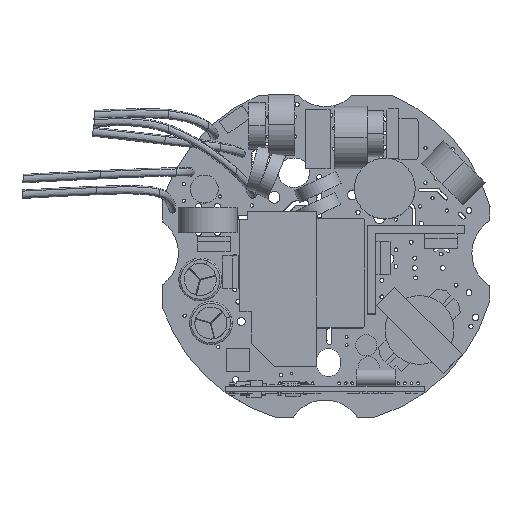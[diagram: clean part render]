
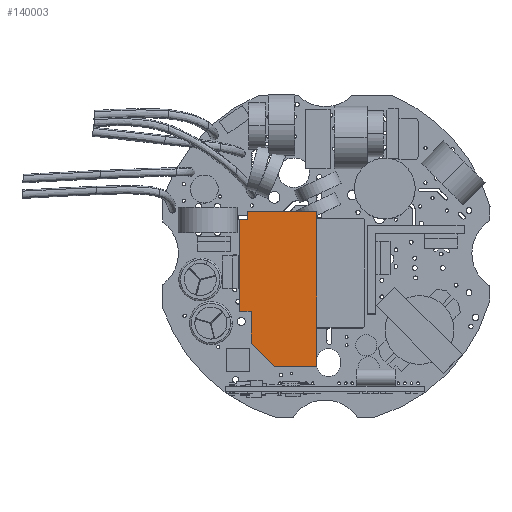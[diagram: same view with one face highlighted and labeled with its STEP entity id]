
A CAD part, top view. The second image highlights one B-rep face of the part: STEP entity #140003.
In plain terms, the highlighted planar face has unit normal (0, 0, 1).
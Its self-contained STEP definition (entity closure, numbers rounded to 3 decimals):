
#139736=DIRECTION('',(1.,0.,0.));
#139737=VECTOR('',#139736,2.5);
#139738=CARTESIAN_POINT('',(-11.75,21.,2.5));
#139739=LINE('',#139738,#139737);
#139743=DIRECTION('',(0.,1.,0.));
#139744=VECTOR('',#139743,2.5);
#139745=CARTESIAN_POINT('',(-9.25,21.,2.5));
#139746=LINE('',#139745,#139744);
#139750=DIRECTION('',(1.,0.,0.));
#139751=VECTOR('',#139750,21.);
#139752=CARTESIAN_POINT('',(-9.25,23.5,2.5));
#139753=LINE('',#139752,#139751);
#139757=DIRECTION('',(0.,-1.,0.));
#139758=VECTOR('',#139757,47.);
#139759=CARTESIAN_POINT('',(11.75,23.5,2.5));
#139760=LINE('',#139759,#139758);
#139764=DIRECTION('',(-1.,0.,0.));
#139765=VECTOR('',#139764,13.);
#139766=CARTESIAN_POINT('',(11.75,-23.5,2.5));
#139767=LINE('',#139766,#139765);
#139771=DIRECTION('',(-0.707,0.707,0.));
#139772=VECTOR('',#139771,9.9);
#139773=CARTESIAN_POINT('',(-1.25,-23.5,2.5));
#139774=LINE('',#139773,#139772);
#139778=DIRECTION('',(0.,1.,0.));
#139779=VECTOR('',#139778,9.65);
#139780=CARTESIAN_POINT('',(-8.25,-16.5,2.5));
#139781=LINE('',#139780,#139779);
#139785=DIRECTION('',(-1.,0.,0.));
#139786=VECTOR('',#139785,3.5);
#139787=CARTESIAN_POINT('',(-8.25,-6.85,2.5));
#139788=LINE('',#139787,#139786);
#139792=DIRECTION('',(0.,1.,0.));
#139793=VECTOR('',#139792,27.85);
#139794=CARTESIAN_POINT('',(-11.75,-6.85,2.5));
#139795=LINE('',#139794,#139793);
#139799=CARTESIAN_POINT('',(-11.75,21.,2.5));
#139801=VERTEX_POINT('',#139799);
#139803=CARTESIAN_POINT('',(-9.25,21.,2.5));
#139804=VERTEX_POINT('',#139803);
#139807=CARTESIAN_POINT('',(-9.25,23.5,2.5));
#139808=VERTEX_POINT('',#139807);
#139811=CARTESIAN_POINT('',(11.75,23.5,2.5));
#139812=VERTEX_POINT('',#139811);
#139815=CARTESIAN_POINT('',(11.75,-23.5,2.5));
#139816=VERTEX_POINT('',#139815);
#139819=CARTESIAN_POINT('',(-1.25,-23.5,2.5));
#139820=VERTEX_POINT('',#139819);
#139823=CARTESIAN_POINT('',(-8.25,-16.5,2.5));
#139824=VERTEX_POINT('',#139823);
#139827=CARTESIAN_POINT('',(-8.25,-6.85,2.5));
#139828=VERTEX_POINT('',#139827);
#139831=CARTESIAN_POINT('',(-11.75,-6.85,2.5));
#139832=VERTEX_POINT('',#139831);
#139987=CARTESIAN_POINT('',(-11.75,21.,2.5));
#139988=DIRECTION('',(0.,0.,-1.));
#139989=DIRECTION('',(-1.,0.,0.));
#139990=AXIS2_PLACEMENT_3D('',#139987,#139988,#139989);
#139991=PLANE('',#139990);
#139992=ORIENTED_EDGE('',*,*,#139846,.T.);
#139993=ORIENTED_EDGE('',*,*,#139965,.T.);
#139994=ORIENTED_EDGE('',*,*,#139951,.T.);
#139995=ORIENTED_EDGE('',*,*,#139936,.T.);
#139996=ORIENTED_EDGE('',*,*,#139921,.T.);
#139997=ORIENTED_EDGE('',*,*,#139906,.T.);
#139998=ORIENTED_EDGE('',*,*,#139891,.T.);
#139999=ORIENTED_EDGE('',*,*,#139876,.T.);
#140000=ORIENTED_EDGE('',*,*,#139861,.T.);
#140001=EDGE_LOOP('',(#139992,#139993,#139994,#139995,#139996,#139997,#139998,
#139999,#140000));
#140002=FACE_OUTER_BOUND('',#140001,.F.);
#139846=EDGE_CURVE('',#139801,#139804,#139739,.T.);
#139861=EDGE_CURVE('',#139832,#139801,#139795,.T.);
#139876=EDGE_CURVE('',#139828,#139832,#139788,.T.);
#139891=EDGE_CURVE('',#139824,#139828,#139781,.T.);
#139906=EDGE_CURVE('',#139820,#139824,#139774,.T.);
#139921=EDGE_CURVE('',#139816,#139820,#139767,.T.);
#139936=EDGE_CURVE('',#139812,#139816,#139760,.T.);
#139951=EDGE_CURVE('',#139808,#139812,#139753,.T.);
#139965=EDGE_CURVE('',#139804,#139808,#139746,.T.);
#140003=ADVANCED_FACE('',(#140002),#139991,.F.);
